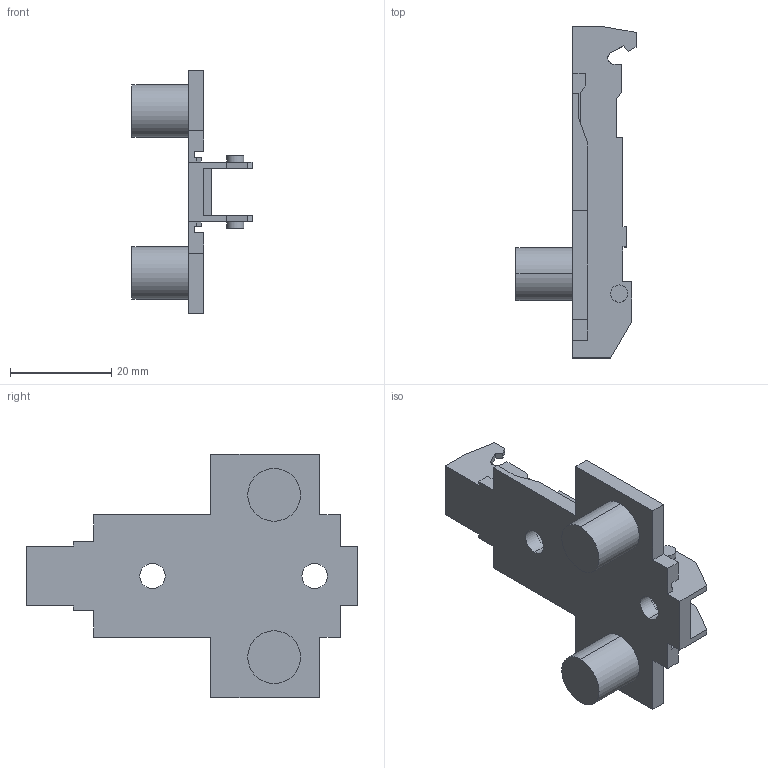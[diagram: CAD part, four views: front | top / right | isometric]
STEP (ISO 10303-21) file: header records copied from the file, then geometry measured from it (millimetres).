
FILE_DESCRIPTION (( 'STEP AP214' ), '1' );
FILE_NAME ('1D_Kreuzmontageplatte 28_32_10mm_Dübel_2.step', '2010-11-18T10:19:00', ( 'grass' ), ( '' ), 'SwSTEP 2.0', 'SolidWorks 2010', '' );
FILE_SCHEMA (( 'AUTOMOTIVE_DESIGN' ));
Length unit declared in the file: millimetre
Products named in the file (1): 1D_Kreuzmontageplatte 28_32_10mm_Dübel_2
Bounding box: 23.7 x 65.5 x 48 mm (x, y, z)
Volume: 8223.4 mm3; surface area: 7437.9 mm2
Topology: 1 solids, 1 shells, 112 faces, 308 edges, 204 vertices
Faces by surface type: plane 86, cylinder 22, cone 4
Entity records: 3570 total; most frequent: CARTESIAN_POINT 625, ORIENTED_EDGE 616, DIRECTION 582, EDGE_CURVE 308, LINE 260, VECTOR 260, VERTEX_POINT 204, AXIS2_PLACEMENT_3D 161
